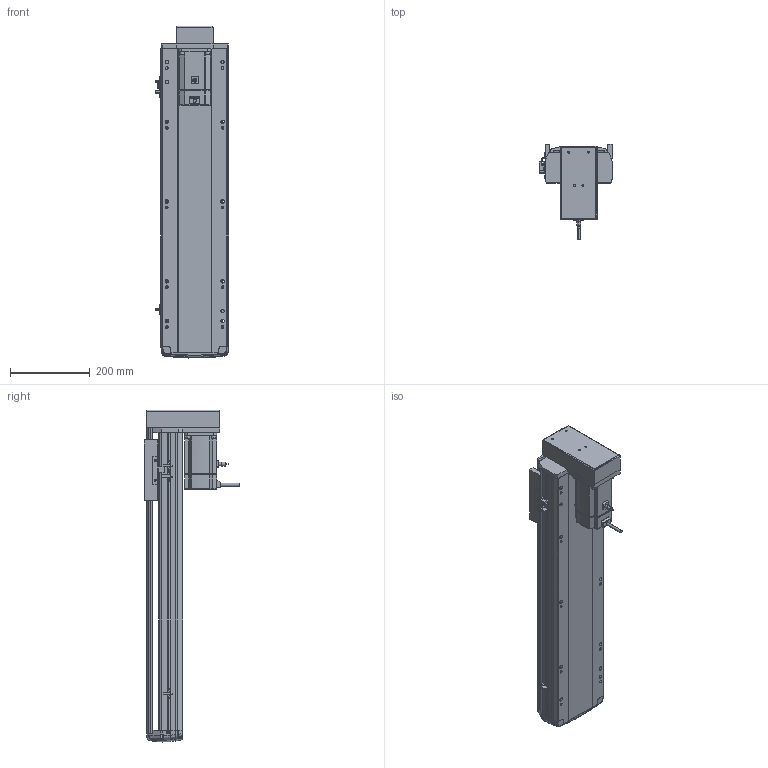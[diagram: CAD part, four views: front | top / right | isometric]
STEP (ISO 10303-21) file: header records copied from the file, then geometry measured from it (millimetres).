
FILE_DESCRIPTION (( 'STEP AP214' ), '1' );
FILE_NAME ('RTH17-XX-550-M-M75-C4.STEP', '2025-10-24T10:24:09', ( '' ), ( '' ), 'SwSTEP 2.0', 'SolidWorks 2018', '' );
FILE_SCHEMA (( 'AUTOMOTIVE_DESIGN' ));
Length unit declared in the file: millimetre
Products named in the file (10): N_RTH-BL-012 感应片(外置)^RTH17-XX-XX-M-M75-C4（方程式）; N_RTH17-M-018盖子^RTH17-XX-XX-M-M75-C4（方程式）; N_M75^RTH17-XX-XX-M-M75-C4（方程式）; N_RTH17-M-008-P75电机安装板下折750W^RTH17-XX-XX-M-M75-C4（方程式）; N_RTH17-M-011底座^RTH17-XX-XX-M-M75-C4（方程式）; N_OMRON EE-SX672 換覜ん^RTH17-XX-XX-M-M75-C4ㄗ源最宒ㄘ; N_RTH17-M-007上盖^RTH17-XX-XX-M-M75-C4（方程式）; N_RTH17-GY-001P^RTH17-XX-XX-M-M75-C4（方程式）; N_RTH17-E-004丝杆螺母连接座^RTH17-XX-XX-M-M75-C4（方程式）; RTH17-XX-550-M-M75-C4
Assembly tree (11 placements, depth 2):
  RTH17-XX-550-M-M75-C4
    N_RTH17-M-011底座^RTH17-XX-XX-M-M75-C4（方程式）
    N_RTH17-M-007上盖^RTH17-XX-XX-M-M75-C4（方程式）
    N_M75^RTH17-XX-XX-M-M75-C4（方程式）
    N_OMRON EE-SX672 換覜ん^RTH17-XX-XX-M-M75-C4ㄗ源最宒ㄘ  x3
    N_RTH-BL-012 感应片(外置)^RTH17-XX-XX-M-M75-C4（方程式）
    N_RTH17-M-008-P75电机安装板下折750W^RTH17-XX-XX-M-M75-C4（方程式）
    N_RTH17-M-018盖子^RTH17-XX-XX-M-M75-C4（方程式）
    N_RTH17-E-004丝杆螺母连接座^RTH17-XX-XX-M-M75-C4（方程式）
    N_RTH17-GY-001P^RTH17-XX-XX-M-M75-C4（方程式）
Bounding box: 183.5 x 240.7 x 833.19 mm (x, y, z)
Volume: 7154170.6 mm3; surface area: 1023879.8 mm2
Topology: 10 solids, 12 shells, 1741 faces, 4796 edges, 3104 vertices
Faces by surface type: plane 828, cylinder 499, bspline 377, cone 28, torus 9
Entity records: 50655 total; most frequent: CARTESIAN_POINT 20266, ORIENTED_EDGE 6616, DIRECTION 5494, EDGE_CURVE 3312, VERTEX_POINT 2140, AXIS2_PLACEMENT_3D 1843, VECTOR 1808, LINE 1808
